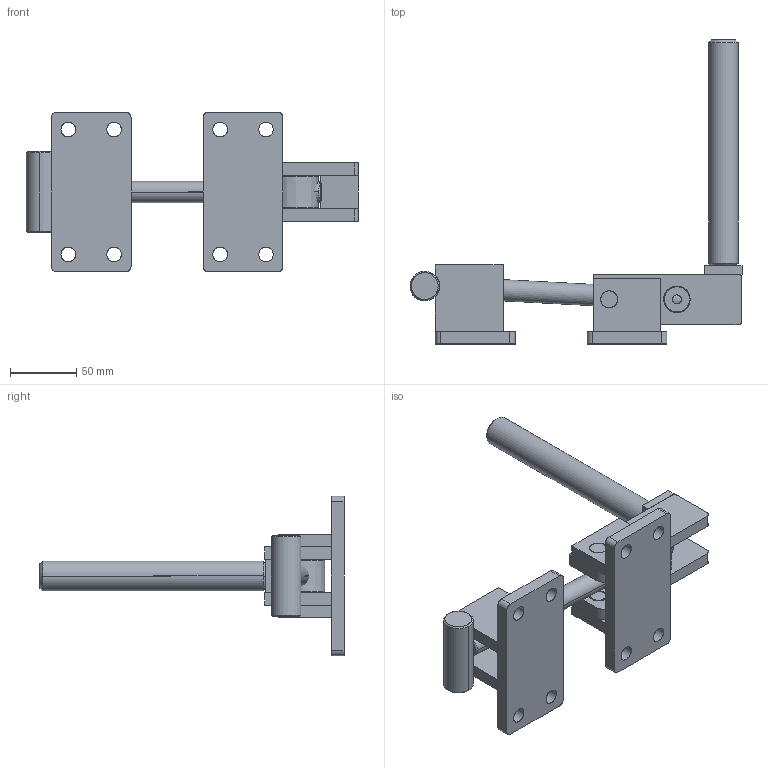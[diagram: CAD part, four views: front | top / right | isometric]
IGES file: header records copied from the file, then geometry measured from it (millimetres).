
Start section: SolidWorks IGES file using analytic representation for surfaces
Global section: file name: C:\Projetos\Grampos\KF-350\KF-350.IGS; native system: SolidWorks 2013; preprocessor: SolidWorks 2013; author: Ricardo; date: 140822.110758; units: millimetre
Bounding box: 249.9 x 228.88 x 120 mm (x, y, z)
Surface area: 126393.3 mm2 (no closed solid volume)
Topology: 0 solids, 0 shells, 172 faces, 2624 edges, 2624 vertices
Faces by surface type: revolution 96, bspline 76
